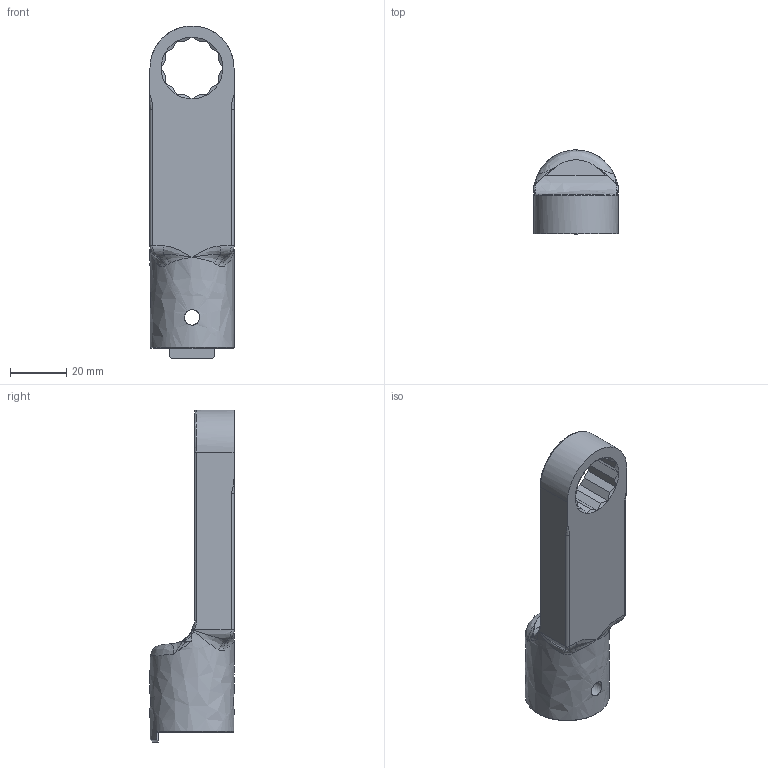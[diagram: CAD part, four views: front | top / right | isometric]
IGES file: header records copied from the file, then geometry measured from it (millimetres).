
Global section: file name: RH22DX19; native system: Autodesk Inventor 2016; preprocessor: unknown; author: Q600; date: 20151110.163233; units: millimetre
Bounding box: 30 x 30 x 118.5 mm (x, y, z)
Volume: 41271.8 mm3; surface area: 13312.1 mm2
Topology: 1 solids, 1 shells, 106 faces, 284 edges, 167 vertices
Faces by surface type: bspline 106
